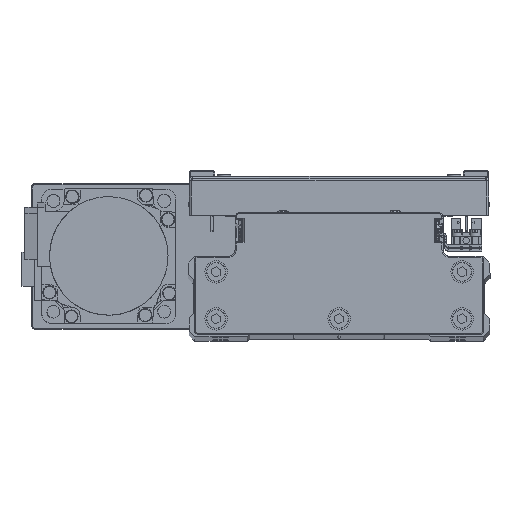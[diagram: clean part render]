
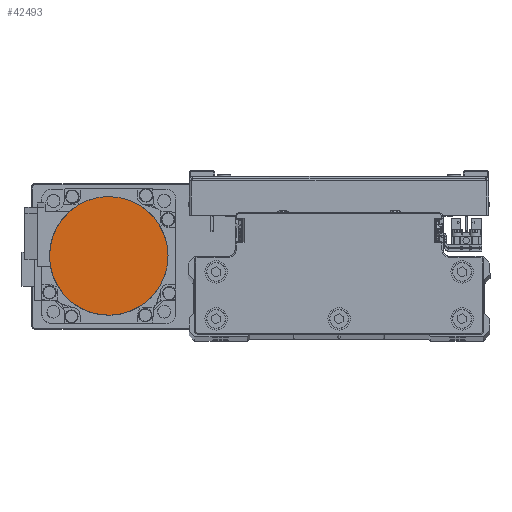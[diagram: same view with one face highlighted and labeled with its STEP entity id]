
A CAD part, top view. The second image highlights one B-rep face of the part: STEP entity #42493.
In plain terms, the highlighted planar face has unit normal (0, 0, 1) as drawn and (0, 0, -1) by its records, which use the part's own axes.
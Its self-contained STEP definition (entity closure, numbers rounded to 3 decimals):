
#34 = CARTESIAN_POINT ( 'NONE',  ( -3.469, 26.329, -109.7 ) ) ;
#246 = CARTESIAN_POINT ( 'NONE',  ( -26.329, 3.469, -109.7 ) ) ;
#3035 = CARTESIAN_POINT ( 'NONE',  ( -19.965, -17.512, -109.7 ) ) ;
#3154 = CARTESIAN_POINT ( 'NONE',  ( 26.329, 3.469, -109.7 ) ) ;
#3255 = CARTESIAN_POINT ( 'NONE',  ( 11.744, -23.819, -109.7 ) ) ;
#3386 = CARTESIAN_POINT ( 'NONE',  ( 3.469, 26.329, -109.7 ) ) ;
#3611 = CARTESIAN_POINT ( 'NONE',  ( -23.819, 11.744, -109.7 ) ) ;
#4302 = EDGE_CURVE ( 'NONE', #26980, #11505, #41654, .T. ) ;
#6431 = CARTESIAN_POINT ( 'NONE',  ( -23.819, -11.744, -109.7 ) ) ;
#6641 = CARTESIAN_POINT ( 'NONE',  ( 3.469, -26.329, -109.7 ) ) ;
#6770 = CARTESIAN_POINT ( 'NONE',  ( 11.744, 23.819, -109.7 ) ) ;
#6871 = CARTESIAN_POINT ( 'NONE',  ( 26.329, -3.469, -109.7 ) ) ;
#7005 = CARTESIAN_POINT ( 'NONE',  ( -19.965, 17.512, -109.7 ) ) ;
#9810 = CARTESIAN_POINT ( 'NONE',  ( -26.329, -3.469, -109.7 ) ) ;
#10038 = CARTESIAN_POINT ( 'NONE',  ( -3.469, -26.329, -109.7 ) ) ;
#10159 = CARTESIAN_POINT ( 'NONE',  ( 17.512, 19.965, -109.7 ) ) ;
#10239 = CARTESIAN_POINT ( 'NONE',  ( 23.819, -11.744, -109.7 ) ) ;
#10373 = CARTESIAN_POINT ( 'NONE',  ( -13.28, 22.998, -109.7 ) ) ;
#10391 = ORIENTED_EDGE ( 'NONE', *, *, #4302, .F. ) ;
#10471 = CARTESIAN_POINT ( 'NONE',  ( 0., 0., -109.7 ) ) ;
#11505 = VERTEX_POINT ( 'NONE', #29434 ) ;
#13417 = CARTESIAN_POINT ( 'NONE',  ( -11.744, -23.819, -109.7 ) ) ;
#13552 = CARTESIAN_POINT ( 'NONE',  ( 22.998, 13.28, -109.7 ) ) ;
#13648 = CARTESIAN_POINT ( 'NONE',  ( 19.965, -17.512, -109.7 ) ) ;
#13772 = CARTESIAN_POINT ( 'NONE',  ( -6.871, 25.652, -109.7 ) ) ;
#13982 = CARTESIAN_POINT ( 'NONE',  ( -26.5, 1.734, -109.7 ) ) ;
#16797 = CARTESIAN_POINT ( 'NONE',  ( -17.512, -19.965, -109.7 ) ) ;
#16928 = CARTESIAN_POINT ( 'NONE',  ( 25.652, 6.871, -109.7 ) ) ;
#17028 = CARTESIAN_POINT ( 'NONE',  ( 13.28, -22.998, -109.7 ) ) ;
#17160 = CARTESIAN_POINT ( 'NONE',  ( 1.734, 26.5, -109.7 ) ) ;
#17385 = CARTESIAN_POINT ( 'NONE',  ( -25.147, 8.539, -109.7 ) ) ;
#17549 = B_SPLINE_CURVE_WITH_KNOTS ( 'NONE', 3,
 ( #26988, #40804, #9810, #23598, #37434, #6431, #20206, #34024, #3035, #16797, #30615, #44371, #13417, #27223, #41029, #10038, #23820, #37646, #6641, #20411, #34245, #3255, #17028, #30852, #44599, #13648, #27435, #41237, #10239, #24029, #37869, #6871, #20643, #34472 ),
 .UNSPECIFIED., .F., .F.,
 ( 4, 2, 2, 2, 2, 2, 2, 2, 2, 2, 2, 2, 2, 2, 2, 2, 4 ),
 ( 0., 0.063, 0.125, 0.188, 0.25, 0.312, 0.375, 0.437, 0.5, 0.562, 0.625, 0.687, 0.75, 0.813, 0.875, 0.938, 1. ),
 .UNSPECIFIED. ) ;
#20206 = CARTESIAN_POINT ( 'NONE',  ( -22.998, -13.28, -109.7 ) ) ;
#20327 = CARTESIAN_POINT ( 'NONE',  ( 26.5, 0., -109.7 ) ) ;
#20411 = CARTESIAN_POINT ( 'NONE',  ( 6.871, -25.652, -109.7 ) ) ;
#20548 = CARTESIAN_POINT ( 'NONE',  ( 8.539, 25.147, -109.7 ) ) ;
#20643 = CARTESIAN_POINT ( 'NONE',  ( 26.5, -1.734, -109.7 ) ) ;
#20783 = CARTESIAN_POINT ( 'NONE',  ( -21.07, 16.165, -109.7 ) ) ;
#23560 = AXIS2_PLACEMENT_3D ( 'NONE', #10471, #24262, #38102 ) ;
#23598 = CARTESIAN_POINT ( 'NONE',  ( -25.652, -6.871, -109.7 ) ) ;
#23820 = CARTESIAN_POINT ( 'NONE',  ( -1.734, -26.5, -109.7 ) ) ;
#23941 = CARTESIAN_POINT ( 'NONE',  ( 16.165, 21.07, -109.7 ) ) ;
#24029 = CARTESIAN_POINT ( 'NONE',  ( 25.147, -8.539, -109.7 ) ) ;
#24169 = CARTESIAN_POINT ( 'NONE',  ( -16.165, 21.07, -109.7 ) ) ;
#24262 = DIRECTION ( 'NONE',  ( 0., 0., 1. ) ) ;
#26980 = VERTEX_POINT ( 'NONE', #39182 ) ;
#26988 = CARTESIAN_POINT ( 'NONE',  ( -26.5, 0., -109.7 ) ) ;
#27223 = CARTESIAN_POINT ( 'NONE',  ( -8.539, -25.147, -109.7 ) ) ;
#27351 = CARTESIAN_POINT ( 'NONE',  ( 21.07, 16.165, -109.7 ) ) ;
#27435 = CARTESIAN_POINT ( 'NONE',  ( 21.07, -16.165, -109.7 ) ) ;
#27559 = CARTESIAN_POINT ( 'NONE',  ( -8.539, 25.147, -109.7 ) ) ;
#27644 = FACE_OUTER_BOUND ( 'NONE', #30067, .T. ) ;
#27793 = CARTESIAN_POINT ( 'NONE',  ( -26.5, 0., -109.7 ) ) ;
#29434 = CARTESIAN_POINT ( 'NONE',  ( -26.5, 0., -109.7 ) ) ;
#30067 = EDGE_LOOP ( 'NONE', ( #10391, #36129 ) ) ;
#30615 = CARTESIAN_POINT ( 'NONE',  ( -16.165, -21.07, -109.7 ) ) ;
#30744 = CARTESIAN_POINT ( 'NONE',  ( 25.147, 8.539, -109.7 ) ) ;
#30852 = CARTESIAN_POINT ( 'NONE',  ( 16.165, -21.07, -109.7 ) ) ;
#30986 = CARTESIAN_POINT ( 'NONE',  ( -1.734, 26.5, -109.7 ) ) ;
#31195 = CARTESIAN_POINT ( 'NONE',  ( -25.652, 6.871, -109.7 ) ) ;
#33269 = EDGE_CURVE ( 'NONE', #11505, #26980, #17549, .T. ) ;
#34024 = CARTESIAN_POINT ( 'NONE',  ( -21.07, -16.165, -109.7 ) ) ;
#34141 = CARTESIAN_POINT ( 'NONE',  ( 26.5, 1.734, -109.7 ) ) ;
#34245 = CARTESIAN_POINT ( 'NONE',  ( 8.539, -25.147, -109.7 ) ) ;
#34369 = CARTESIAN_POINT ( 'NONE',  ( 6.871, 25.652, -109.7 ) ) ;
#34472 = CARTESIAN_POINT ( 'NONE',  ( 26.5, 0., -109.7 ) ) ;
#34603 = CARTESIAN_POINT ( 'NONE',  ( -22.998, 13.28, -109.7 ) ) ;
#36129 = ORIENTED_EDGE ( 'NONE', *, *, #33269, .F. ) ;
#37434 = CARTESIAN_POINT ( 'NONE',  ( -25.147, -8.539, -109.7 ) ) ;
#37646 = CARTESIAN_POINT ( 'NONE',  ( 1.734, -26.5, -109.7 ) ) ;
#37769 = CARTESIAN_POINT ( 'NONE',  ( 13.28, 22.998, -109.7 ) ) ;
#37869 = CARTESIAN_POINT ( 'NONE',  ( 25.652, -6.871, -109.7 ) ) ;
#38004 = CARTESIAN_POINT ( 'NONE',  ( -17.512, 19.965, -109.7 ) ) ;
#38102 = DIRECTION ( 'NONE',  ( 1., 0., 0. ) ) ;
#39182 = CARTESIAN_POINT ( 'NONE',  ( 26.5, 0., -109.7 ) ) ;
#40804 = CARTESIAN_POINT ( 'NONE',  ( -26.5, -1.734, -109.7 ) ) ;
#41029 = CARTESIAN_POINT ( 'NONE',  ( -6.871, -25.652, -109.7 ) ) ;
#41149 = CARTESIAN_POINT ( 'NONE',  ( 19.965, 17.512, -109.7 ) ) ;
#41237 = CARTESIAN_POINT ( 'NONE',  ( 22.998, -13.28, -109.7 ) ) ;
#41361 = CARTESIAN_POINT ( 'NONE',  ( -11.744, 23.819, -109.7 ) ) ;
#41453 = PLANE ( 'NONE',  #23560 ) ;
#41654 = B_SPLINE_CURVE_WITH_KNOTS ( 'NONE', 3,
 ( #20327, #34141, #3154, #16928, #30744, #44499, #13552, #27351, #41149, #10159, #23941, #37769, #6770, #20548, #34369, #3386, #17160, #30986, #34, #13772, #27559, #41361, #10373, #24169, #38004, #7005, #20783, #34603, #3611, #17385, #31195, #246, #13982, #27793 ),
 .UNSPECIFIED., .F., .F.,
 ( 4, 2, 2, 2, 2, 2, 2, 2, 2, 2, 2, 2, 2, 2, 2, 2, 4 ),
 ( 0., 0.062, 0.125, 0.187, 0.25, 0.312, 0.375, 0.437, 0.5, 0.562, 0.625, 0.687, 0.75, 0.813, 0.875, 0.938, 1. ),
 .UNSPECIFIED. ) ;
#42493 = ADVANCED_FACE ( 'NONE', ( #27644 ), #41453, .F. ) ;
#44371 = CARTESIAN_POINT ( 'NONE',  ( -13.28, -22.998, -109.7 ) ) ;
#44499 = CARTESIAN_POINT ( 'NONE',  ( 23.819, 11.744, -109.7 ) ) ;
#44599 = CARTESIAN_POINT ( 'NONE',  ( 17.512, -19.965, -109.7 ) ) ;
